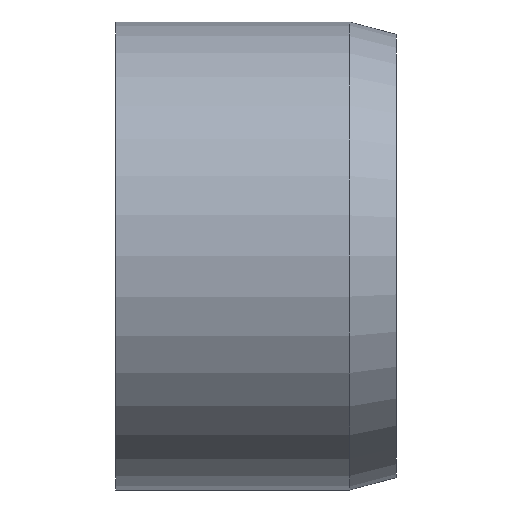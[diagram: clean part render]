
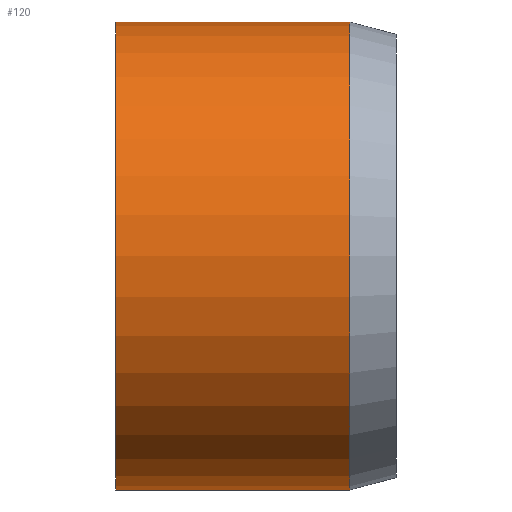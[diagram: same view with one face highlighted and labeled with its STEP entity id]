
A CAD part, front view. The second image highlights one B-rep face of the part: STEP entity #120.
In plain terms, the highlighted cylindrical face has radius 10 mm (diameter 20 mm), a full revolution.
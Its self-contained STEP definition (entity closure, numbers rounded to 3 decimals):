
#20=LINE('',#229,#23);
#23=VECTOR('',#197,10.);
#26=CYLINDRICAL_SURFACE('',#157,10.);
#32=FACE_OUTER_BOUND('',#41,.T.);
#41=EDGE_LOOP('',(#97,#98,#99,#100));
#49=CIRCLE('',#151,10.);
#53=CIRCLE('',#158,10.);
#59=VERTEX_POINT('',#217);
#62=VERTEX_POINT('',#227);
#70=EDGE_CURVE('',#59,#59,#49,.T.);
#74=EDGE_CURVE('',#62,#62,#53,.T.);
#75=EDGE_CURVE('',#62,#59,#20,.T.);
#97=ORIENTED_EDGE('',*,*,#74,.F.);
#98=ORIENTED_EDGE('',*,*,#75,.T.);
#99=ORIENTED_EDGE('',*,*,#70,.T.);
#100=ORIENTED_EDGE('',*,*,#75,.F.);
#120=ADVANCED_FACE('',(#32),#26,.T.);
#151=AXIS2_PLACEMENT_3D('',#218,#181,#182);
#157=AXIS2_PLACEMENT_3D('',#226,#193,#194);
#158=AXIS2_PLACEMENT_3D('',#228,#195,#196);
#181=DIRECTION('center_axis',(1.,0.,0.));
#182=DIRECTION('ref_axis',(0.,0.,-1.));
#193=DIRECTION('center_axis',(1.,0.,0.));
#194=DIRECTION('ref_axis',(0.,1.,0.));
#195=DIRECTION('center_axis',(1.,0.,0.));
#196=DIRECTION('ref_axis',(0.,0.,-1.));
#197=DIRECTION('',(-1.,0.,0.));
#217=CARTESIAN_POINT('',(0.,-10.,0.));
#218=CARTESIAN_POINT('Origin',(0.,0.,0.));
#226=CARTESIAN_POINT('Origin',(5.,0.,0.));
#227=CARTESIAN_POINT('',(10.,-10.,0.));
#228=CARTESIAN_POINT('Origin',(10.,0.,0.));
#229=CARTESIAN_POINT('',(5.,-10.,0.));
